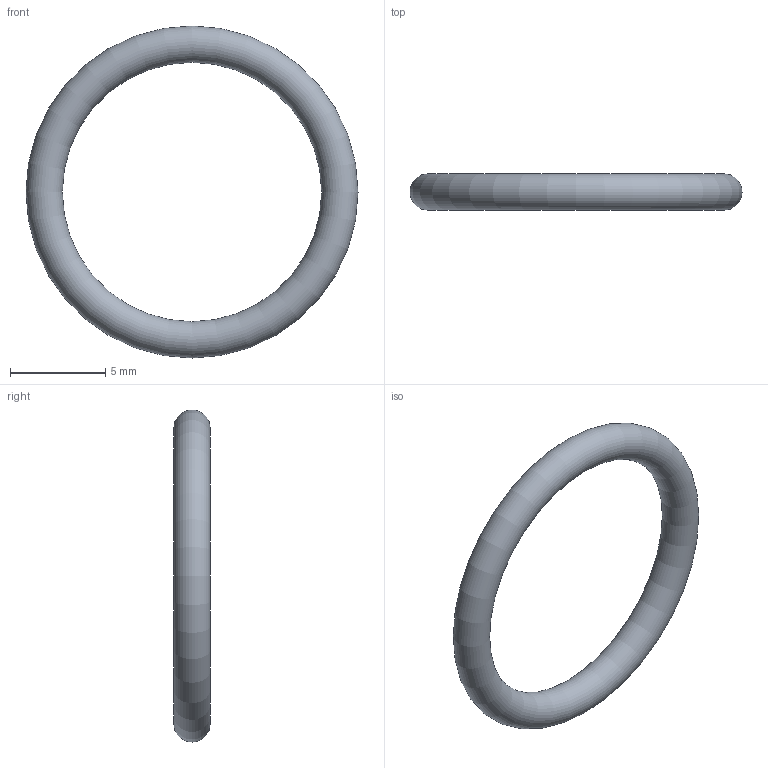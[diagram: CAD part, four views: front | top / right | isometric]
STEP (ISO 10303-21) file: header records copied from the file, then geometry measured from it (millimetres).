
FILE_DESCRIPTION(/* description */ (''),/* implementation_level */ '2;1');
FILE_NAME(/* name */ 'C:/Users/drich/Desktop/P7 v1.step',/* time_stamp */ '2020-02-10T19:57:11-06:00',/* author */ (''),/* organization */ (''),/* preprocessor_version */ 'ST-DEVELOPER v18',/* originating_system */ 'Autodesk Translation Framework v8.12.0.6',/* authorisation */ '');
FILE_SCHEMA (('AUTOMOTIVE_DESIGN { 1 0 10303 214 3 1 1 }'));
Length unit declared in the file: inch
Products named in the file (1): P7
Bounding box: 17.4 x 1.91 x 17.4 mm (x, y, z)
Volume: 138.7 mm3; surface area: 291.3 mm2
Topology: 1 solids, 1 shells, 1 faces, 2 edges, 1 vertices
Faces by surface type: torus 1
Entity records: 76 total; most frequent: DIRECTION 8, CARTESIAN_POINT 5, ORIENTED_EDGE 4, AXIS2_PLACEMENT_3D 4, CIRCLE 2, EDGE_CURVE 2, DERIVED_UNIT_ELEMENT 2, PROPERTY_DEFINITION_REPRESENTATION 2
